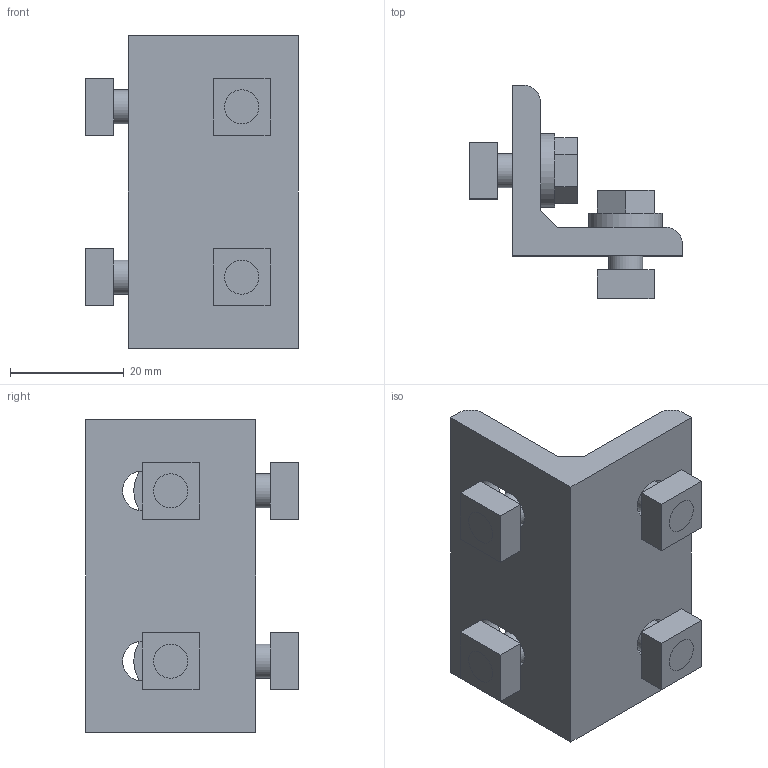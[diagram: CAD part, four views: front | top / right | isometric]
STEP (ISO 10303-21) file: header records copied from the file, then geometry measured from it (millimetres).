
FILE_DESCRIPTION((''),'2;1');
FILE_NAME('C:\Documents and Settings\古川典政\My Documents\Inventor\HP用\MasterData\BRACKET\M6\ABL-3055-6.stp','2008-07-31T09:17:11',(''),(''),'Autodesk Inventor 2008','Autodesk Inventor 2008','');
FILE_SCHEMA(('CONFIG_CONTROL_DESIGN'));
Length unit declared in the file: millimetre
Products named in the file (10): ABL-3055-6; ABL-3055-61; ABL-3055-62; ABL-3055-63; ABL-3055-64; ABL-3055-65; ABL-3055-66; ABL-3055-67; ABL-3055-68; ABL-3055-69
Assembly tree (9 placements, depth 2):
  ABL-3055-6
    ABL-3055-61
    ABL-3055-62
    ABL-3055-63
    ABL-3055-64
    ABL-3055-65
    ABL-3055-66
    ABL-3055-67
    ABL-3055-68
    ABL-3055-69
Bounding box: 37.5 x 37.5 x 55 mm (x, y, z)
Volume: 19563 mm3; surface area: 12112.1 mm2
Topology: 9 solids, 9 shells, 105 faces, 235 edges, 160 vertices
Faces by surface type: plane 81, cylinder 18, bspline 6
Full cylindrical faces by diameter (mm): 6 x4, 6.4 x4, 13 x4
Entity records: 3122 total; most frequent: CARTESIAN_POINT 583, DIRECTION 491, ORIENTED_EDGE 414, EDGE_CURVE 207, AXIS2_PLACEMENT_3D 166, VECTOR 159, LINE 159, EDGE_LOOP 151
